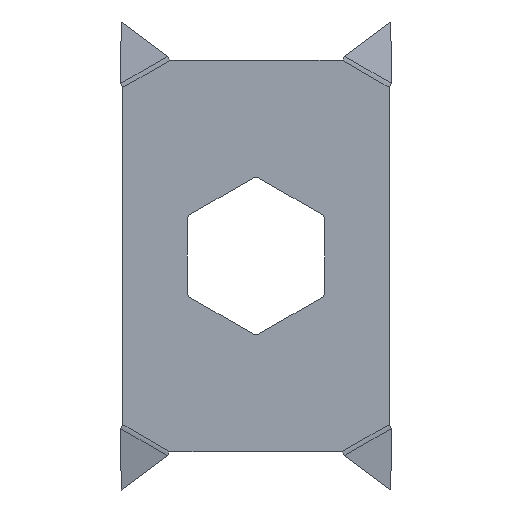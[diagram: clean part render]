
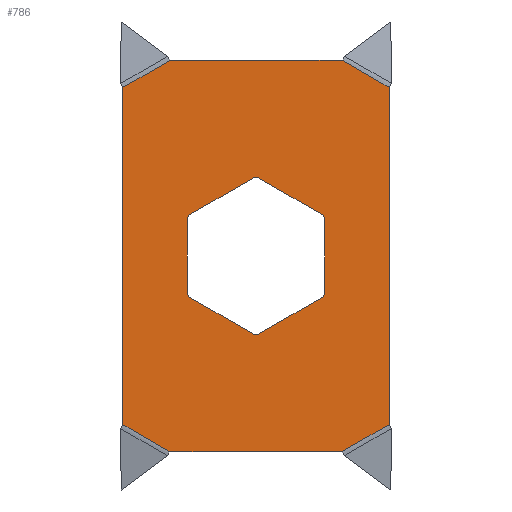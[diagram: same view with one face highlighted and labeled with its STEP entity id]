
A CAD part, left-side view. The second image highlights one B-rep face of the part: STEP entity #786.
In plain terms, the highlighted planar face has unit normal (-1, 0, 0).
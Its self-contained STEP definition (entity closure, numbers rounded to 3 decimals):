
#16=FACE_BOUND('',#128,.T.);
#23=CIRCLE('',#843,10.05);
#24=CIRCLE('',#844,10.05);
#25=CIRCLE('',#845,10.05);
#26=CIRCLE('',#846,10.05);
#27=CIRCLE('',#847,10.05);
#28=CIRCLE('',#848,10.05);
#76=FACE_OUTER_BOUND('',#127,.T.);
#127=EDGE_LOOP('',(#574,#575,#576,#577,#578,#579,#580,#581));
#128=EDGE_LOOP('',(#582,#583,#584,#585,#586,#587,#588,#589,#590,#591,#592,
#593));
#173=LINE('',#1098,#259);
#195=LINE('',#1196,#281);
#199=LINE('',#1234,#285);
#200=LINE('',#1236,#286);
#201=LINE('',#1238,#287);
#202=LINE('',#1240,#288);
#203=LINE('',#1242,#289);
#204=LINE('',#1243,#290);
#205=LINE('',#1248,#291);
#206=LINE('',#1252,#292);
#207=LINE('',#1256,#293);
#208=LINE('',#1260,#294);
#209=LINE('',#1264,#295);
#210=LINE('',#1267,#296);
#259=VECTOR('',#894,6.928);
#281=VECTOR('',#936,21.962);
#285=VECTOR('',#944,6.973);
#286=VECTOR('',#945,43.05);
#287=VECTOR('',#946,6.928);
#288=VECTOR('',#947,21.962);
#289=VECTOR('',#948,6.973);
#290=VECTOR('',#949,43.05);
#291=VECTOR('',#952,9.707);
#292=VECTOR('',#955,9.707);
#293=VECTOR('',#958,9.707);
#294=VECTOR('',#961,9.707);
#295=VECTOR('',#964,9.707);
#296=VECTOR('',#967,9.707);
#345=VERTEX_POINT('',#1092);
#346=VERTEX_POINT('',#1097);
#368=VERTEX_POINT('',#1194);
#371=VERTEX_POINT('',#1225);
#373=VERTEX_POINT('',#1235);
#374=VERTEX_POINT('',#1237);
#375=VERTEX_POINT('',#1239);
#376=VERTEX_POINT('',#1241);
#377=VERTEX_POINT('',#1244);
#378=VERTEX_POINT('',#1245);
#379=VERTEX_POINT('',#1247);
#380=VERTEX_POINT('',#1249);
#381=VERTEX_POINT('',#1251);
#382=VERTEX_POINT('',#1253);
#383=VERTEX_POINT('',#1255);
#384=VERTEX_POINT('',#1257);
#385=VERTEX_POINT('',#1259);
#386=VERTEX_POINT('',#1261);
#387=VERTEX_POINT('',#1263);
#388=VERTEX_POINT('',#1265);
#412=EDGE_CURVE('',#345,#346,#173,.T.);
#443=EDGE_CURVE('',#368,#345,#195,.T.);
#450=EDGE_CURVE('',#368,#371,#199,.T.);
#451=EDGE_CURVE('',#373,#371,#200,.T.);
#452=EDGE_CURVE('',#374,#373,#201,.T.);
#453=EDGE_CURVE('',#375,#374,#202,.T.);
#454=EDGE_CURVE('',#375,#376,#203,.T.);
#455=EDGE_CURVE('',#346,#376,#204,.T.);
#456=EDGE_CURVE('',#377,#378,#23,.T.);
#457=EDGE_CURVE('',#378,#379,#205,.T.);
#458=EDGE_CURVE('',#379,#380,#24,.T.);
#459=EDGE_CURVE('',#380,#381,#206,.T.);
#460=EDGE_CURVE('',#381,#382,#25,.T.);
#461=EDGE_CURVE('',#382,#383,#207,.T.);
#462=EDGE_CURVE('',#383,#384,#26,.T.);
#463=EDGE_CURVE('',#384,#385,#208,.T.);
#464=EDGE_CURVE('',#385,#386,#27,.T.);
#465=EDGE_CURVE('',#386,#387,#209,.T.);
#466=EDGE_CURVE('',#387,#388,#28,.T.);
#467=EDGE_CURVE('',#388,#377,#210,.T.);
#574=ORIENTED_EDGE('',*,*,#412,.F.);
#575=ORIENTED_EDGE('',*,*,#443,.F.);
#576=ORIENTED_EDGE('',*,*,#450,.T.);
#577=ORIENTED_EDGE('',*,*,#451,.F.);
#578=ORIENTED_EDGE('',*,*,#452,.F.);
#579=ORIENTED_EDGE('',*,*,#453,.F.);
#580=ORIENTED_EDGE('',*,*,#454,.T.);
#581=ORIENTED_EDGE('',*,*,#455,.F.);
#582=ORIENTED_EDGE('',*,*,#456,.T.);
#583=ORIENTED_EDGE('',*,*,#457,.T.);
#584=ORIENTED_EDGE('',*,*,#458,.T.);
#585=ORIENTED_EDGE('',*,*,#459,.T.);
#586=ORIENTED_EDGE('',*,*,#460,.T.);
#587=ORIENTED_EDGE('',*,*,#461,.T.);
#588=ORIENTED_EDGE('',*,*,#462,.T.);
#589=ORIENTED_EDGE('',*,*,#463,.T.);
#590=ORIENTED_EDGE('',*,*,#464,.T.);
#591=ORIENTED_EDGE('',*,*,#465,.T.);
#592=ORIENTED_EDGE('',*,*,#466,.T.);
#593=ORIENTED_EDGE('',*,*,#467,.T.);
#753=PLANE('',#842);
#786=ADVANCED_FACE('',(#76,#16),#753,.F.);
#842=AXIS2_PLACEMENT_3D('',#1233,#942,#943);
#843=AXIS2_PLACEMENT_3D('',#1246,#950,#951);
#844=AXIS2_PLACEMENT_3D('',#1250,#953,#954);
#845=AXIS2_PLACEMENT_3D('',#1254,#956,#957);
#846=AXIS2_PLACEMENT_3D('',#1258,#959,#960);
#847=AXIS2_PLACEMENT_3D('',#1262,#962,#963);
#848=AXIS2_PLACEMENT_3D('',#1266,#965,#966);
#894=DIRECTION('',(0.,-0.866,-0.5));
#936=DIRECTION('',(0.,-1.,0.));
#942=DIRECTION('center_axis',(1.,0.,0.));
#943=DIRECTION('ref_axis',(0.,0.,
-1.));
#944=DIRECTION('',(0.,0.866,-0.5));
#945=DIRECTION('',(0.,0.,1.));
#946=DIRECTION('',(0.,0.866,0.5));
#947=DIRECTION('',(0.,1.,0.));
#948=DIRECTION('',(0.,-0.866,0.5));
#949=DIRECTION('',(0.,0.,-1.));
#950=DIRECTION('center_axis',(1.,0.,0.));
#951=DIRECTION('ref_axis',(0.,0.02,1.));
#952=DIRECTION('',(0.,0.866,0.5));
#953=DIRECTION('center_axis',(1.,0.,0.));
#954=DIRECTION('ref_axis',(0.,-0.856,0.517));
#955=DIRECTION('',(0.,0.,1.));
#956=DIRECTION('center_axis',(1.,0.,0.));
#957=DIRECTION('ref_axis',(0.,-0.876,-0.483));
#958=DIRECTION('',(0.,-0.866,0.5));
#959=DIRECTION('center_axis',(1.,0.,0.));
#960=DIRECTION('ref_axis',(0.,-0.02,-1.));
#961=DIRECTION('',(0.,-0.866,-0.5));
#962=DIRECTION('center_axis',(1.,0.,0.));
#963=DIRECTION('ref_axis',(0.,0.856,-0.517));
#964=DIRECTION('',(0.,0.,-1.));
#965=DIRECTION('center_axis',(1.,0.,0.));
#966=DIRECTION('ref_axis',(0.,0.876,0.483));
#967=DIRECTION('',(0.,0.866,-0.5));
#1092=CARTESIAN_POINT('',(10.358,-11.499,24.136));
#1097=CARTESIAN_POINT('',(10.358,-17.499,20.672));
#1098=CARTESIAN_POINT('',(10.358,-24.85,16.428));
#1194=CARTESIAN_POINT('',(10.358,10.463,24.136));
#1196=CARTESIAN_POINT('',(10.358,10.501,24.136));
#1225=CARTESIAN_POINT('',(10.358,16.501,20.65));
#1233=CARTESIAN_POINT('Origin',(10.358,-15.566,-26.266));
#1234=CARTESIAN_POINT('',(10.358,12.917,22.72));
#1235=CARTESIAN_POINT('',(10.358,16.501,-22.4));
#1236=CARTESIAN_POINT('',(10.358,16.501,-30.364));
#1237=CARTESIAN_POINT('',(10.358,10.501,-25.864));
#1238=CARTESIAN_POINT('',(10.358,1.927,-30.814));
#1239=CARTESIAN_POINT('',(10.358,-11.46,-25.864));
#1240=CARTESIAN_POINT('',(10.358,-11.499,-25.864));
#1241=CARTESIAN_POINT('',(10.358,-17.499,-22.377));
#1242=CARTESIAN_POINT('',(10.358,-14.215,-24.273));
#1243=CARTESIAN_POINT('',(10.358,-17.499,28.636));
#1244=CARTESIAN_POINT('',(10.358,-0.695,-10.912));
#1245=CARTESIAN_POINT('',(10.358,-0.302,-10.912));
#1246=CARTESIAN_POINT('Origin',(10.358,-0.499,-0.864));
#1247=CARTESIAN_POINT('',(10.358,8.105,-6.058));
#1248=CARTESIAN_POINT('',(10.358,-9.35,-16.136));
#1249=CARTESIAN_POINT('',(10.358,8.302,-5.717));
#1250=CARTESIAN_POINT('Origin',(10.358,-0.499,-0.864));
#1251=CARTESIAN_POINT('',(10.358,8.302,3.99));
#1252=CARTESIAN_POINT('',(10.358,8.302,-15.991));
#1253=CARTESIAN_POINT('',(10.358,8.105,4.331));
#1254=CARTESIAN_POINT('Origin',(10.358,-0.499,-0.864));
#1255=CARTESIAN_POINT('',(10.358,-0.302,9.184));
#1256=CARTESIAN_POINT('',(10.358,5.853,5.631));
#1257=CARTESIAN_POINT('',(10.358,-0.695,9.184));
#1258=CARTESIAN_POINT('Origin',(10.358,-0.499,-0.864));
#1259=CARTESIAN_POINT('',(10.358,-9.102,4.331));
#1260=CARTESIAN_POINT('',(10.358,-13.947,1.534));
#1261=CARTESIAN_POINT('',(10.358,-9.299,3.99));
#1262=CARTESIAN_POINT('Origin',(10.358,-0.499,-0.864));
#1263=CARTESIAN_POINT('',(10.358,-9.299,-5.717));
#1264=CARTESIAN_POINT('',(10.358,-9.299,-11.138));
#1265=CARTESIAN_POINT('',(10.358,-9.102,-6.058));
#1266=CARTESIAN_POINT('Origin',(10.358,-0.499,-0.864));
#1267=CARTESIAN_POINT('',(10.358,-7.151,-7.185));
